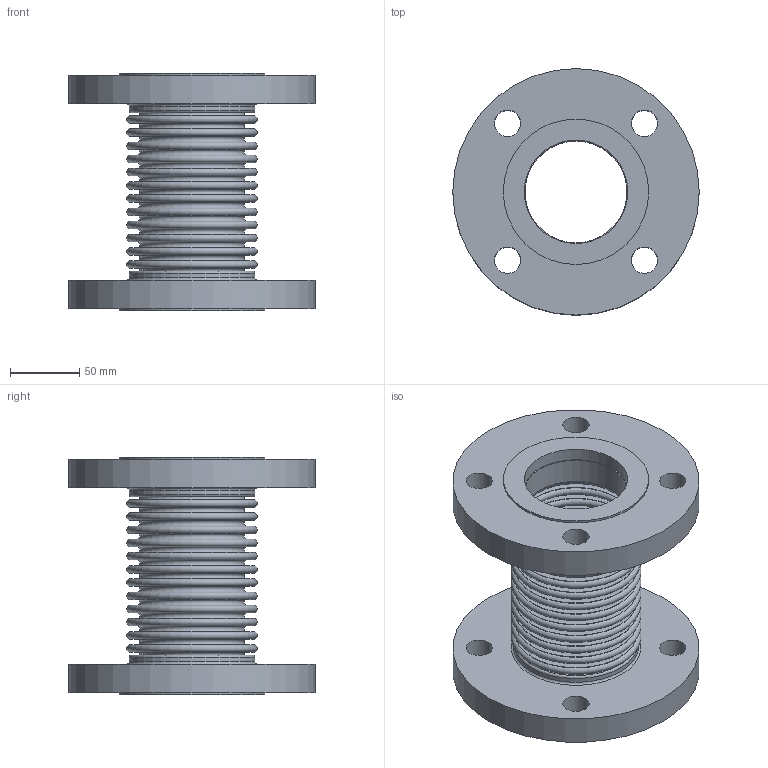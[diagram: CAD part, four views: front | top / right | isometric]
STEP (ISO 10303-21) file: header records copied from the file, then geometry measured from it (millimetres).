
FILE_DESCRIPTION(/* description */ ('EXPANSION JOINT,SINGLE, FLANGED ENDS,2 1/2 INCH NOMINAL','CAx-IF Rec.Pracs.---Representation and Presentation of Product Manufacturing Information (PMI)---4.0---2014-10-13'),/* implementation_level */ '2;1');
FILE_NAME(/* name */ 'US-02.5-12-150L-FLANGED ENDS.stp',/* time_stamp */ '2026-07-31T16:38:34-05:00',/* author */ ('Guadalupe'),/* organization */ (''),/* preprocessor_version */ 'ST-DEVELOPER v20.1',/* originating_system */ 'Autodesk Inventor 2026',/* authorisation */ '');
FILE_SCHEMA (('AP242_MANAGED_MODEL_BASED_3D_ENGINEERING_MIM_LF { 1 0 10303 442 2 1 4 }'));
Length unit declared in the file: inch
Products named in the file (3): 02.5-150L; 02.5-150L-02; 02.5-150L-01
Assembly tree (3 placements, depth 2):
  02.5-150L
    02.5-150L-02  x2
    02.5-150L-01
Bounding box: 177.8 x 177.8 x 171.2 mm (x, y, z)
Volume: 886136.3 mm3; surface area: 300994.4 mm2
Topology: 5 solids, 5 shells, 136 faces, 222 edges, 148 vertices
Faces by surface type: plane 62, torus 54, cylinder 20
Full cylindrical faces by diameter (mm): 19.05 x8, 73.66 x2, 74.676 x2, 74.879 x2, 90.424 x2, 104.902 x2, 177.8 x2
Entity records: 3138 total; most frequent: DIRECTION 654, CARTESIAN_POINT 465, ORIENTED_EDGE 384, AXIS2_PLACEMENT_3D 321, EDGE_CURVE 192, EDGE_LOOP 188, CIRCLE 180, VERTEX_POINT 128
